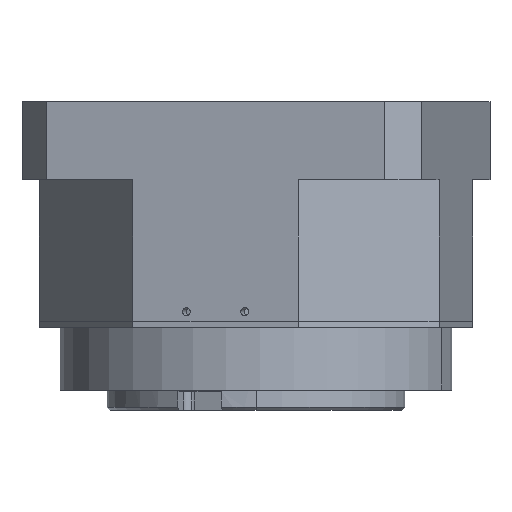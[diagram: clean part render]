
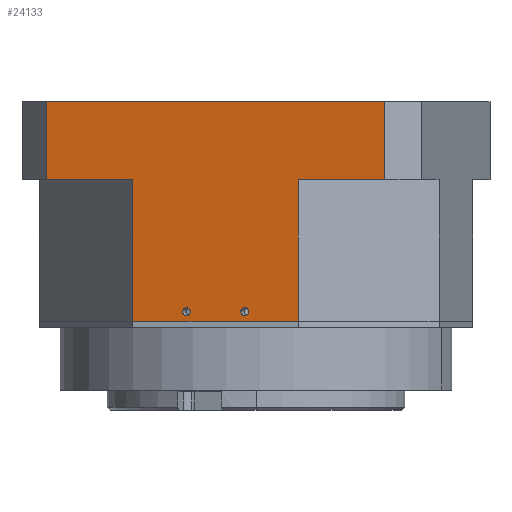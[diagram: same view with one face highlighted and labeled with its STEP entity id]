
A CAD part, left-side view. The second image highlights one B-rep face of the part: STEP entity #24133.
In plain terms, the highlighted planar face has unit normal (-0.98, 0.198, 0) as drawn and (0, 1, 0) by its records, which use the part's own axes.
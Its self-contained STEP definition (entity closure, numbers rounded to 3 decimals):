
#531 = AXIS2_PLACEMENT_3D ( 'NONE', #11961, #34003, #15170 ) ;
#791 = CARTESIAN_POINT ( 'NONE',  ( 9.5, 66.5, 68.25 ) ) ;
#1000 = CIRCLE ( 'NONE', #6800, 1.25 ) ;
#1142 = CARTESIAN_POINT ( 'NONE',  ( 9.5, 66.5, 65.75 ) ) ;
#1218 = VERTEX_POINT ( 'NONE', #16502 ) ;
#1251 = VECTOR ( 'NONE', #23405, 1000. ) ;
#1270 = CARTESIAN_POINT ( 'NONE',  ( -26.924, 66.5, 25. ) ) ;
#1393 = AXIS2_PLACEMENT_3D ( 'NONE', #15751, #15717, #16116 ) ;
#1538 = VECTOR ( 'NONE', #40856, 1000. ) ;
#1940 = EDGE_CURVE ( 'NONE', #23048, #30154, #3152, .T. ) ;
#2481 = VECTOR ( 'NONE', #38042, 1000. ) ;
#2628 = VECTOR ( 'NONE', #17223, 1000. ) ;
#3152 = LINE ( 'NONE', #38588, #2481 ) ;
#4734 = EDGE_CURVE ( 'NONE', #36654, #1218, #19059, .T. ) ;
#5950 = CIRCLE ( 'NONE', #1393, 1.25 ) ;
#6546 = VERTEX_POINT ( 'NONE', #28238 ) ;
#6656 = CIRCLE ( 'NONE', #30788, 1.25 ) ;
#6800 = AXIS2_PLACEMENT_3D ( 'NONE', #16244, #38155, #19409 ) ;
#7271 = FACE_BOUND ( 'NONE', #24305, .T. ) ;
#8403 = VERTEX_POINT ( 'NONE', #23528 ) ;
#8486 = CARTESIAN_POINT ( 'NONE',  ( -55., 66.5, 25. ) ) ;
#8626 = VERTEX_POINT ( 'NONE', #9584 ) ;
#9071 = EDGE_CURVE ( 'NONE', #24613, #29133, #5950, .T. ) ;
#9584 = CARTESIAN_POINT ( 'NONE',  ( -9.5, 66.5, 68.25 ) ) ;
#10902 = VECTOR ( 'NONE', #17399, 1000. ) ;
#10995 = CARTESIAN_POINT ( 'NONE',  ( -65., 66.5, 25. ) ) ;
#11592 = VERTEX_POINT ( 'NONE', #15793 ) ;
#11961 = CARTESIAN_POINT ( 'NONE',  ( 9.5, 66.5, 67. ) ) ;
#11971 = EDGE_CURVE ( 'NONE', #8403, #25777, #22523, .T. ) ;
#12696 = CIRCLE ( 'NONE', #531, 1.25 ) ;
#13351 = CARTESIAN_POINT ( 'NONE',  ( 55., 66.5, 0. ) ) ;
#13481 = DIRECTION ( 'NONE',  ( 1., 0., 0. ) ) ;
#13520 = VECTOR ( 'NONE', #13481, 1000. ) ;
#13622 = PLANE ( 'NONE',  #20853 ) ;
#13623 = LINE ( 'NONE', #23023, #29387 ) ;
#14113 = VECTOR ( 'NONE', #37038, 1000. ) ;
#14896 = CARTESIAN_POINT ( 'NONE',  ( -26.924, 66.5, 70. ) ) ;
#15170 = DIRECTION ( 'NONE',  ( 0., 0., 1. ) ) ;
#15717 = DIRECTION ( 'NONE',  ( 0., 1., 0. ) ) ;
#15751 = CARTESIAN_POINT ( 'NONE',  ( 9.5, 66.5, 67. ) ) ;
#15793 = CARTESIAN_POINT ( 'NONE',  ( -9.5, 66.5, 65.75 ) ) ;
#15949 = VERTEX_POINT ( 'NONE', #13351 ) ;
#16116 = DIRECTION ( 'NONE',  ( 0., 0., 1. ) ) ;
#16244 = CARTESIAN_POINT ( 'NONE',  ( -9.5, 66.5, 67. ) ) ;
#16502 = CARTESIAN_POINT ( 'NONE',  ( -55., 66.5, 0. ) ) ;
#16812 = CARTESIAN_POINT ( 'NONE',  ( -65., 66.5, 70. ) ) ;
#16813 = DIRECTION ( 'NONE',  ( -1., 0., 0. ) ) ;
#17223 = DIRECTION ( 'NONE',  ( -1., 0., 0. ) ) ;
#17399 = DIRECTION ( 'NONE',  ( -1., 0., 0. ) ) ;
#17879 = ORIENTED_EDGE ( 'NONE', *, *, #32267, .F. ) ;
#18291 = EDGE_CURVE ( 'NONE', #1218, #15949, #29304, .T. ) ;
#18798 = DIRECTION ( 'NONE',  ( 0., 1., 0. ) ) ;
#19059 = LINE ( 'NONE', #23643, #1251 ) ;
#19409 = DIRECTION ( 'NONE',  ( 0., 0., 1. ) ) ;
#19452 = LINE ( 'NONE', #29601, #2628 ) ;
#19586 = ORIENTED_EDGE ( 'NONE', *, *, #1940, .F. ) ;
#20853 = AXIS2_PLACEMENT_3D ( 'NONE', #16812, #38582, #38718 ) ;
#21265 = EDGE_CURVE ( 'NONE', #6546, #8403, #35029, .T. ) ;
#21574 = EDGE_CURVE ( 'NONE', #11592, #8626, #1000, .T. ) ;
#22523 = LINE ( 'NONE', #37860, #14113 ) ;
#23023 = CARTESIAN_POINT ( 'NONE',  ( -65., 66.5, 70. ) ) ;
#23048 = VERTEX_POINT ( 'NONE', #14896 ) ;
#23405 = DIRECTION ( 'NONE',  ( 0., 0., -1. ) ) ;
#23528 = CARTESIAN_POINT ( 'NONE',  ( 26.924, 66.5, 25. ) ) ;
#23643 = CARTESIAN_POINT ( 'NONE',  ( -55., 66.5, 70. ) ) ;
#24133 = ADVANCED_FACE ( 'NONE', ( #40709, #39741, #7271 ), #13622, .F. ) ;
#24305 = EDGE_LOOP ( 'NONE', ( #34194, #36300 ) ) ;
#24523 = ORIENTED_EDGE ( 'NONE', *, *, #30678, .F. ) ;
#24613 = VERTEX_POINT ( 'NONE', #1142 ) ;
#25777 = VERTEX_POINT ( 'NONE', #27047 ) ;
#26423 = EDGE_LOOP ( 'NONE', ( #30038, #32783, #35889, #17879, #19586, #24523, #26551, #28317 ) ) ;
#26551 = ORIENTED_EDGE ( 'NONE', *, *, #11971, .F. ) ;
#26742 = LINE ( 'NONE', #31427, #1538 ) ;
#26754 = EDGE_CURVE ( 'NONE', #6546, #15949, #26742, .T. ) ;
#27047 = CARTESIAN_POINT ( 'NONE',  ( 26.924, 66.5, 70. ) ) ;
#28238 = CARTESIAN_POINT ( 'NONE',  ( 55., 66.5, 25. ) ) ;
#28317 = ORIENTED_EDGE ( 'NONE', *, *, #21265, .F. ) ;
#29133 = VERTEX_POINT ( 'NONE', #791 ) ;
#29304 = LINE ( 'NONE', #32320, #13520 ) ;
#29387 = VECTOR ( 'NONE', #16813, 1000. ) ;
#29426 = EDGE_CURVE ( 'NONE', #29133, #24613, #12696, .T. ) ;
#29601 = CARTESIAN_POINT ( 'NONE',  ( -65., 66.5, 25. ) ) ;
#30038 = ORIENTED_EDGE ( 'NONE', *, *, #26754, .T. ) ;
#30154 = VERTEX_POINT ( 'NONE', #1270 ) ;
#30469 = ORIENTED_EDGE ( 'NONE', *, *, #29426, .F. ) ;
#30678 = EDGE_CURVE ( 'NONE', #25777, #23048, #13623, .T. ) ;
#30788 = AXIS2_PLACEMENT_3D ( 'NONE', #37543, #18798, #40699 ) ;
#31427 = CARTESIAN_POINT ( 'NONE',  ( 55., 66.5, 70. ) ) ;
#32057 = EDGE_LOOP ( 'NONE', ( #30469, #32437 ) ) ;
#32267 = EDGE_CURVE ( 'NONE', #30154, #36654, #19452, .T. ) ;
#32320 = CARTESIAN_POINT ( 'NONE',  ( 0., 66.5, 0. ) ) ;
#32437 = ORIENTED_EDGE ( 'NONE', *, *, #9071, .F. ) ;
#32783 = ORIENTED_EDGE ( 'NONE', *, *, #18291, .F. ) ;
#34003 = DIRECTION ( 'NONE',  ( 0., 1., 0. ) ) ;
#34194 = ORIENTED_EDGE ( 'NONE', *, *, #35688, .F. ) ;
#35029 = LINE ( 'NONE', #10995, #10902 ) ;
#35688 = EDGE_CURVE ( 'NONE', #8626, #11592, #6656, .T. ) ;
#35889 = ORIENTED_EDGE ( 'NONE', *, *, #4734, .F. ) ;
#36300 = ORIENTED_EDGE ( 'NONE', *, *, #21574, .F. ) ;
#36654 = VERTEX_POINT ( 'NONE', #8486 ) ;
#37038 = DIRECTION ( 'NONE',  ( 0., 0., 1. ) ) ;
#37543 = CARTESIAN_POINT ( 'NONE',  ( -9.5, 66.5, 67. ) ) ;
#37860 = CARTESIAN_POINT ( 'NONE',  ( 26.924, 66.5, 70. ) ) ;
#38042 = DIRECTION ( 'NONE',  ( 0., 0., -1. ) ) ;
#38155 = DIRECTION ( 'NONE',  ( 0., 1., 0. ) ) ;
#38582 = DIRECTION ( 'NONE',  ( 0., -1., 0. ) ) ;
#38588 = CARTESIAN_POINT ( 'NONE',  ( -26.924, 66.5, 70. ) ) ;
#38718 = DIRECTION ( 'NONE',  ( 0., 0., -1. ) ) ;
#39741 = FACE_BOUND ( 'NONE', #32057, .T. ) ;
#40699 = DIRECTION ( 'NONE',  ( 0., 0., 1. ) ) ;
#40709 = FACE_OUTER_BOUND ( 'NONE', #26423, .T. ) ;
#40856 = DIRECTION ( 'NONE',  ( 0., 0., -1. ) ) ;
